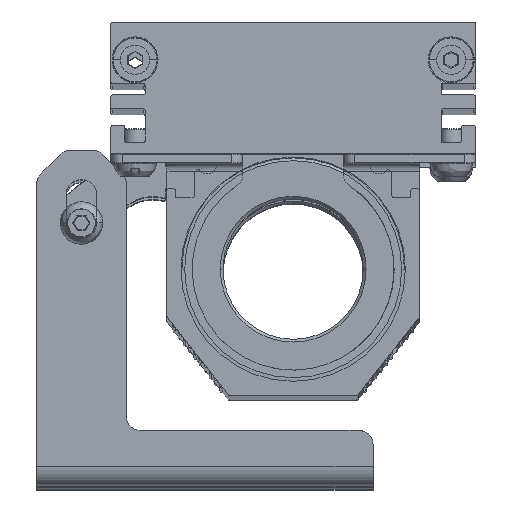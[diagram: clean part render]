
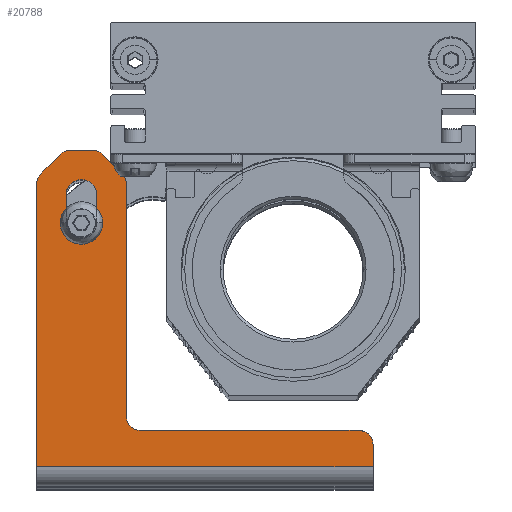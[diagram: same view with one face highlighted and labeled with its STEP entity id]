
A CAD part, top view. The second image highlights one B-rep face of the part: STEP entity #20788.
In plain terms, the highlighted planar face has unit normal (0, 0, 1).
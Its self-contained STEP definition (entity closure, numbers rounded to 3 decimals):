
#19646=CARTESIAN_POINT('',(-43.25,15.324,183.5));
#19647=DIRECTION('',(0.,0.,-1.));
#19648=DIRECTION('',(-1.,0.,0.));
#19649=AXIS2_PLACEMENT_3D('',#19646,#19647,#19648);
#19651=DIRECTION('',(0.707,0.707,0.));
#19652=VECTOR('',#19651,5.);
#19653=CARTESIAN_POINT('',(-45.018,17.092,183.5));
#19654=LINE('',#19653,#19652);
#19655=CARTESIAN_POINT('',(-39.714,18.86,183.5));
#19656=DIRECTION('',(0.,0.,-1.));
#19657=DIRECTION('',(-0.707,0.707,0.));
#19658=AXIS2_PLACEMENT_3D('',#19655,#19656,#19657);
#19660=DIRECTION('',(1.,0.,0.));
#19661=VECTOR('',#19660,3.929);
#19662=CARTESIAN_POINT('',(-39.714,21.36,183.5));
#19663=LINE('',#19662,#19661);
#19664=CARTESIAN_POINT('',(-35.786,18.86,183.5));
#19665=DIRECTION('',(0.,0.,-1.));
#19666=DIRECTION('',(0.,1.,0.));
#19667=AXIS2_PLACEMENT_3D('',#19664,#19665,#19666);
#19669=DIRECTION('',(0.707,-0.707,0.));
#19670=VECTOR('',#19669,5.);
#19671=CARTESIAN_POINT('',(-34.018,20.628,183.5));
#19672=LINE('',#19671,#19670);
#19673=CARTESIAN_POINT('',(-32.25,15.324,183.5));
#19674=DIRECTION('',(0.,0.,-1.));
#19675=DIRECTION('',(0.707,0.707,0.));
#19676=AXIS2_PLACEMENT_3D('',#19673,#19674,#19675);
#19678=DIRECTION('',(0.,-1.,0.));
#19679=VECTOR('',#19678,41.464);
#19680=CARTESIAN_POINT('',(-29.75,15.324,183.5));
#19681=LINE('',#19680,#19679);
#19682=CARTESIAN_POINT('',(-27.25,-26.14,183.5));
#19683=DIRECTION('',(0.,0.,1.));
#19684=DIRECTION('',(-1.,0.,0.));
#19685=AXIS2_PLACEMENT_3D('',#19682,#19683,#19684);
#19687=DIRECTION('',(1.,0.,0.));
#19688=VECTOR('',#19687,39.);
#19689=CARTESIAN_POINT('',(-27.25,-28.64,183.5));
#19690=LINE('',#19689,#19688);
#19691=CARTESIAN_POINT('',(11.75,-31.14,183.5));
#19692=DIRECTION('',(0.,0.,-1.));
#19693=DIRECTION('',(0.,1.,0.));
#19694=AXIS2_PLACEMENT_3D('',#19691,#19692,#19693);
#19696=DIRECTION('',(0.,-1.,0.));
#19697=VECTOR('',#19696,4.);
#19698=CARTESIAN_POINT('',(14.25,-31.14,183.5));
#19699=LINE('',#19698,#19697);
#19700=DIRECTION('',(0.,1.,0.));
#19701=VECTOR('',#19700,6.5);
#19702=CARTESIAN_POINT('',(-45.75,-35.14,183.5));
#19703=LINE('',#19702,#19701);
#19704=DIRECTION('',(0.,1.,0.));
#19705=VECTOR('',#19704,43.964);
#19706=CARTESIAN_POINT('',(-45.75,-28.64,183.5));
#19707=LINE('',#19706,#19705);
#19708=CARTESIAN_POINT('',(-37.75,13.36,183.5));
#19709=DIRECTION('',(0.,0.,1.));
#19710=DIRECTION('',(1.,0.,0.));
#19711=AXIS2_PLACEMENT_3D('',#19708,#19709,#19710);
#19713=DIRECTION('',(0.,-1.,0.));
#19714=VECTOR('',#19713,5.);
#19715=CARTESIAN_POINT('',(-40.5,13.36,183.5));
#19716=LINE('',#19715,#19714);
#19717=CARTESIAN_POINT('',(-37.75,8.36,183.5));
#19718=DIRECTION('',(0.,0.,1.));
#19719=DIRECTION('',(-1.,0.,0.));
#19720=AXIS2_PLACEMENT_3D('',#19717,#19718,#19719);
#19722=DIRECTION('',(0.,1.,0.));
#19723=VECTOR('',#19722,5.);
#19724=CARTESIAN_POINT('',(-35.,8.36,183.5));
#19725=LINE('',#19724,#19723);
#19800=DIRECTION('',(1.,0.,0.));
#19801=VECTOR('',#19800,60.);
#19802=CARTESIAN_POINT('',(-45.75,-35.14,183.5));
#19803=LINE('',#19802,#19801);
#20086=CARTESIAN_POINT('',(14.25,-35.14,183.5));
#20087=VERTEX_POINT('',#20086);
#20090=CARTESIAN_POINT('',(-45.75,-35.14,183.5));
#20091=VERTEX_POINT('',#20090);
#20092=CARTESIAN_POINT('',(-45.75,15.324,183.5));
#20093=CARTESIAN_POINT('',(-45.018,17.092,183.5));
#20094=VERTEX_POINT('',#20092);
#20095=VERTEX_POINT('',#20093);
#20096=CARTESIAN_POINT('',(-41.482,20.628,183.5));
#20097=VERTEX_POINT('',#20096);
#20098=CARTESIAN_POINT('',(-39.714,21.36,183.5));
#20099=VERTEX_POINT('',#20098);
#20100=CARTESIAN_POINT('',(-35.786,21.36,183.5));
#20101=VERTEX_POINT('',#20100);
#20102=CARTESIAN_POINT('',(-34.018,20.628,183.5));
#20103=VERTEX_POINT('',#20102);
#20104=CARTESIAN_POINT('',(-30.482,17.092,183.5));
#20105=VERTEX_POINT('',#20104);
#20106=CARTESIAN_POINT('',(-29.75,15.324,183.5));
#20107=VERTEX_POINT('',#20106);
#20108=CARTESIAN_POINT('',(-29.75,-26.14,183.5));
#20109=VERTEX_POINT('',#20108);
#20110=CARTESIAN_POINT('',(-27.25,-28.64,183.5));
#20111=VERTEX_POINT('',#20110);
#20112=CARTESIAN_POINT('',(11.75,-28.64,183.5));
#20113=VERTEX_POINT('',#20112);
#20114=CARTESIAN_POINT('',(14.25,-31.14,183.5));
#20115=VERTEX_POINT('',#20114);
#20116=CARTESIAN_POINT('',(-45.75,-28.64,183.5));
#20117=VERTEX_POINT('',#20116);
#20118=CARTESIAN_POINT('',(-35.,13.36,183.5));
#20119=CARTESIAN_POINT('',(-40.5,13.36,183.5));
#20120=VERTEX_POINT('',#20118);
#20121=VERTEX_POINT('',#20119);
#20122=CARTESIAN_POINT('',(-40.5,8.36,183.5));
#20123=VERTEX_POINT('',#20122);
#20124=CARTESIAN_POINT('',(-35.,8.36,183.5));
#20125=VERTEX_POINT('',#20124);
#20742=CARTESIAN_POINT('',(-31.494,-38.64,183.5));
#20743=DIRECTION('',(0.,0.,1.));
#20744=DIRECTION('',(1.,0.,0.));
#20745=AXIS2_PLACEMENT_3D('',#20742,#20743,#20744);
#20746=PLANE('',#20745);
#20747=ORIENTED_EDGE('',*,*,#20732,.T.);
#20749=ORIENTED_EDGE('',*,*,#20748,.T.);
#20751=ORIENTED_EDGE('',*,*,#20750,.T.);
#20753=ORIENTED_EDGE('',*,*,#20752,.T.);
#20755=ORIENTED_EDGE('',*,*,#20754,.T.);
#20757=ORIENTED_EDGE('',*,*,#20756,.T.);
#20759=ORIENTED_EDGE('',*,*,#20758,.T.);
#20761=ORIENTED_EDGE('',*,*,#20760,.T.);
#20763=ORIENTED_EDGE('',*,*,#20762,.T.);
#20765=ORIENTED_EDGE('',*,*,#20764,.T.);
#20767=ORIENTED_EDGE('',*,*,#20766,.T.);
#20769=ORIENTED_EDGE('',*,*,#20768,.T.);
#20771=ORIENTED_EDGE('',*,*,#20770,.F.);
#20773=ORIENTED_EDGE('',*,*,#20772,.T.);
#20775=ORIENTED_EDGE('',*,*,#20774,.T.);
#20776=EDGE_LOOP('',(#20747,#20749,#20751,#20753,#20755,#20757,#20759,#20761,
#20763,#20765,#20767,#20769,#20771,#20773,#20775));
#20777=FACE_OUTER_BOUND('',#20776,.F.);
#20779=ORIENTED_EDGE('',*,*,#20778,.T.);
#20781=ORIENTED_EDGE('',*,*,#20780,.T.);
#20783=ORIENTED_EDGE('',*,*,#20782,.T.);
#20785=ORIENTED_EDGE('',*,*,#20784,.T.);
#20786=EDGE_LOOP('',(#20779,#20781,#20783,#20785));
#20787=FACE_BOUND('',#20786,.F.);
#20788=ADVANCED_FACE('',(#20777,#20787),#20746,.T.);
#19650=CIRCLE('',#19649,2.5);
#19659=CIRCLE('',#19658,2.5);
#19668=CIRCLE('',#19667,2.5);
#19677=CIRCLE('',#19676,2.5);
#19686=CIRCLE('',#19685,2.5);
#19695=CIRCLE('',#19694,2.5);
#19712=CIRCLE('',#19711,2.75);
#19721=CIRCLE('',#19720,2.75);
#20732=EDGE_CURVE('',#20094,#20095,#19650,.T.);
#20748=EDGE_CURVE('',#20095,#20097,#19654,.T.);
#20750=EDGE_CURVE('',#20097,#20099,#19659,.T.);
#20752=EDGE_CURVE('',#20099,#20101,#19663,.T.);
#20754=EDGE_CURVE('',#20101,#20103,#19668,.T.);
#20756=EDGE_CURVE('',#20103,#20105,#19672,.T.);
#20758=EDGE_CURVE('',#20105,#20107,#19677,.T.);
#20760=EDGE_CURVE('',#20107,#20109,#19681,.T.);
#20762=EDGE_CURVE('',#20109,#20111,#19686,.T.);
#20764=EDGE_CURVE('',#20111,#20113,#19690,.T.);
#20766=EDGE_CURVE('',#20113,#20115,#19695,.T.);
#20768=EDGE_CURVE('',#20115,#20087,#19699,.T.);
#20770=EDGE_CURVE('',#20091,#20087,#19803,.T.);
#20772=EDGE_CURVE('',#20091,#20117,#19703,.T.);
#20774=EDGE_CURVE('',#20117,#20094,#19707,.T.);
#20778=EDGE_CURVE('',#20120,#20121,#19712,.T.);
#20780=EDGE_CURVE('',#20121,#20123,#19716,.T.);
#20782=EDGE_CURVE('',#20123,#20125,#19721,.T.);
#20784=EDGE_CURVE('',#20125,#20120,#19725,.T.);
